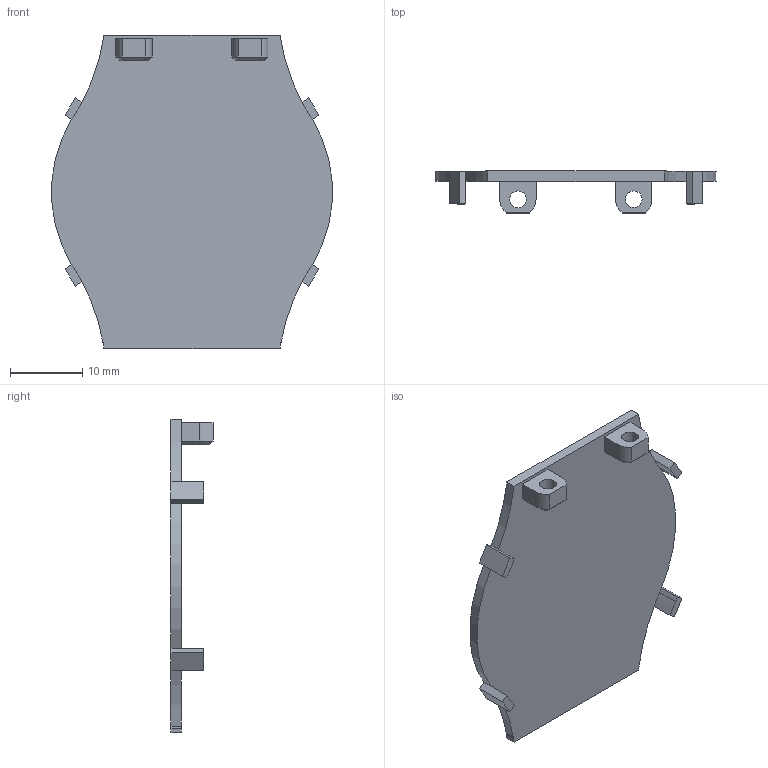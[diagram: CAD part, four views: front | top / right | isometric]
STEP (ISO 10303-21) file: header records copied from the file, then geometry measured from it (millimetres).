
FILE_DESCRIPTION (( 'STEP AP214' ), '1' );
FILE_NAME ('Part1^Clock prototype.STEP', '2026-05-30T07:46:39', ( '' ), ( '' ), 'SwSTEP 2.0', 'SolidWorks 2026', '' );
FILE_SCHEMA (( 'AUTOMOTIVE_DESIGN' ));
Length unit declared in the file: millimetre
Products named in the file (1): Part1^Clock prototype
Bounding box: 38.7 x 5.8 x 43.28 mm (x, y, z)
Volume: 2095.5 mm3; surface area: 3254.2 mm2
Topology: 1 solids, 1 shells, 68 faces, 176 edges, 112 vertices
Faces by surface type: plane 40, cylinder 24, cone 4
Entity records: 2099 total; most frequent: CARTESIAN_POINT 369, DIRECTION 362, ORIENTED_EDGE 352, EDGE_CURVE 176, AXIS2_PLACEMENT_3D 121, LINE 120, VECTOR 120, VERTEX_POINT 112
